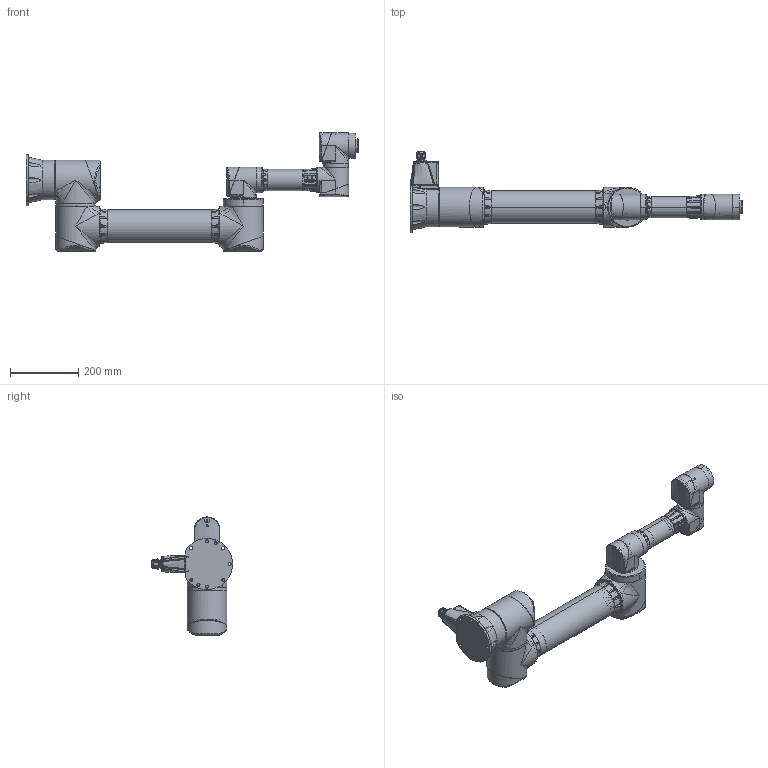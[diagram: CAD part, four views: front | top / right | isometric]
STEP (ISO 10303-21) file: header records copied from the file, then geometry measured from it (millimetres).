
FILE_DESCRIPTION((''),'2;1');
FILE_NAME('ZRA_0507N_ASM','2022-11-10T09:22:30',('ChoSeongHee'),(''),'CREO PARAMETRIC BY PTC INC, 2020354','CREO PARAMETRIC BY PTC INC, 2020354','');
FILE_SCHEMA(('CONFIG_CONTROL_DESIGN'));
Products named in the file (25): FLANGE_B; HOLDER_M; COVER_M; MODULE_M_ASM; RING_M; ARM1_PIPE; FLANGE_ARM1; ARM1_ASM; FLANGE_J3; HOLDER_S; COVER_S; MODULE_S_ASM; PIPE2; FLANGE_J4; FLANGE_J5; PLATE; PORT; ARM2_ASM; FLANGE_E; RING_S; COVER_J; CABLE; PLATE_J; COVER_J_ASM; ZRA_0507N_ASM
Assembly tree (29 placements, depth 3):
  ZRA_0507N_ASM
    FLANGE_B
    MODULE_M_ASM  x3
      HOLDER_M
      COVER_M
    RING_M
    ARM1_ASM
      ARM1_PIPE
      FLANGE_ARM1  x2
    FLANGE_J3
    MODULE_S_ASM  x3
      HOLDER_S
      COVER_S
    ARM2_ASM
      PIPE2
      FLANGE_J4
      FLANGE_J5
      PLATE
      PORT
    FLANGE_E
    RING_S
    COVER_J_ASM
      COVER_J
      CABLE
      PLATE_J
Bounding box: 970.1 x 237.3 x 344.89 mm (x, y, z)
Volume: 12349136.9 mm3; surface area: 930466.3 mm2
Topology: 28 solids, 212 shells, 3861 faces, 10478 edges, 6914 vertices
Faces by surface type: cylinder 1409, plane 1297, bspline 650, torus 269, cone 210, sphere 18, extrusion 8
Entity records: 146255 total; most frequent: CARTESIAN_POINT 72340, ORIENTED_EDGE 16264, DIRECTION 13894, EDGE_CURVE 8266, VERTEX_POINT 5414, AXIS2_PLACEMENT_3D 5218, VECTOR 3458, LINE 3450
